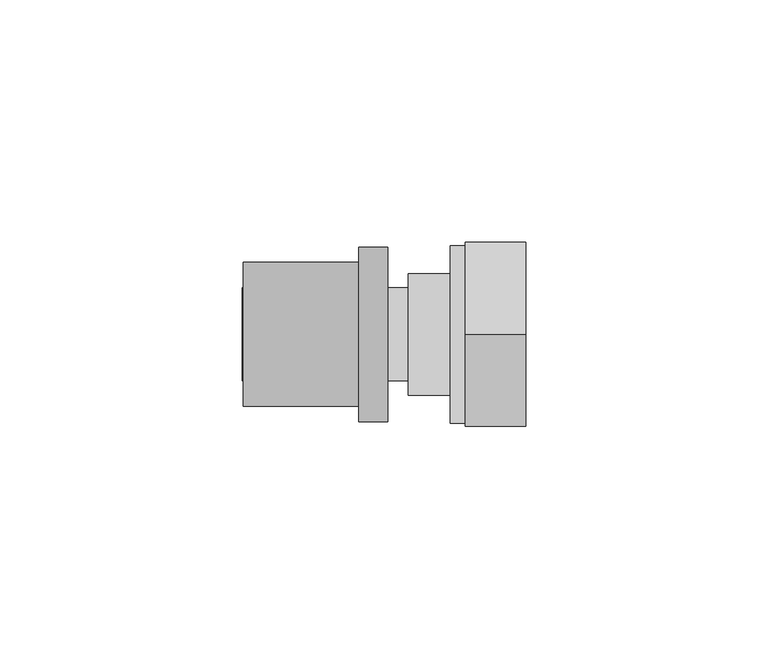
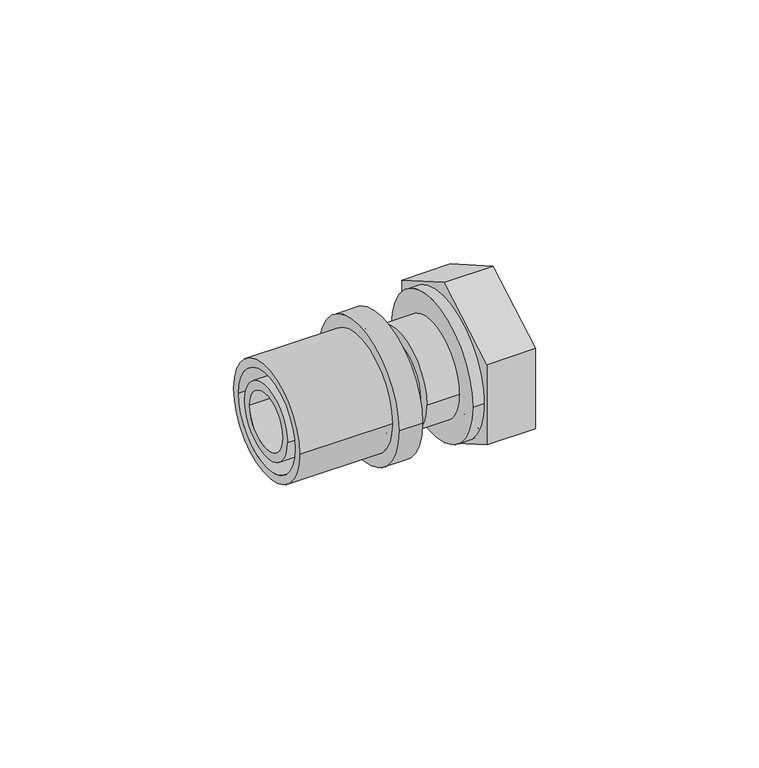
"""IFC4 building model written with IfcOpenShell, lengths in millimetres: pipe fitting geometry, FASTLOC_Adapter with union nut EX+ : FSL A union nut EX+ AT."""

from ifc_helpers import new_model, si_unit, point, frame, origin, origin_2d, place, context, project, spatial, polyline, circle_curve, trimmed, segment, composite_curve, outline, extrude, source, transform, mapped, element, save
from ifc_brep_helpers import plane_surface, cylinder_surface, revolved_surface, advanced_brep


def pipe_fitting_bacc4522(model_context):
    return source(origin(), model_context, "Body", "SolidModel", [
        advanced_brep(
        [(-10.3, -18.0, 0.0), (-10.3, 18.0, 0.0), (-4.3, 18.0, 0.0), (-4.3, -18.0, 0.0), (-34.1, -14.85, 0.0), (-34.1, 14.85, 0.0), (-10.3, 14.85, 0.0), (-10.3, -14.85, 0.0), (-4.3, -12.65, 0.0), (-4.3, 12.65, 0.0), (-34.1, 12.65, 0.0), (-34.1, -12.65, 0.0)],
        [
            (0, 1, circle_curve(frame((-10.3, 0.0, 0.0), z_axis=(1.0, 0.0, 0.0), x_axis=(0.0, 1.0, 0.0)), 18.0)),
            (1, 2),
            (2, 3, circle_curve(frame((-4.3, 0.0, 0.0), z_axis=(-1.0, 0.0, 0.0), x_axis=(0.0, 1.0, 0.0)), 18.0)),
            (3, 0),
            (4, 5, circle_curve(frame((-34.1, 0.0, 0.0), z_axis=(1.0, 0.0, 0.0), x_axis=(0.0, 1.0, 0.0)), 14.85)),
            (5, 6),
            (6, 7, circle_curve(frame((-10.3, 0.0, 0.0), z_axis=(-1.0, 0.0, 0.0), x_axis=(0.0, 1.0, 0.0)), 14.85)),
            (7, 4),
            (8, 9, circle_curve(frame((-4.3, 0.0, 0.0), z_axis=(1.0, 0.0, 0.0), x_axis=(0.0, 1.0, 0.0)), 12.65)),
            (9, 10),
            (10, 11, circle_curve(frame((-34.1, 0.0, 0.0), z_axis=(-1.0, 0.0, 0.0), x_axis=(0.0, 1.0, 0.0)), 12.65)),
            (11, 8),
            (1, 0, circle_curve(frame((-10.3, 0.0, 0.0), z_axis=(1.0, 0.0, 0.0), x_axis=(0.0, -1.0, 0.0)), 18.0)),
            (3, 2, circle_curve(frame((-4.3, 0.0, 0.0), z_axis=(-1.0, 0.0, 0.0), x_axis=(0.0, -1.0, 0.0)), 18.0)),
            (6, 7, circle_curve(frame((-10.3, 0.0, 0.0), z_axis=(1.0, 0.0, 0.0), x_axis=(0.0, -1.0, 0.0)), 14.85)),
            (5, 4, circle_curve(frame((-34.1, 0.0, 0.0), z_axis=(1.0, 0.0, 0.0), x_axis=(0.0, -1.0, 0.0)), 14.85)),
            (10, 11, circle_curve(frame((-34.1, 0.0, 0.0), z_axis=(1.0, 0.0, 0.0), x_axis=(0.0, -1.0, 0.0)), 12.65)),
            (9, 8, circle_curve(frame((-4.3, 0.0, 0.0), z_axis=(1.0, 0.0, 0.0), x_axis=(0.0, -1.0, 0.0)), 12.65)),
        ],
        [
            cylinder_surface(frame((-4.3, 0.0, 0.0), z_axis=(-1.0, 0.0, 0.0), x_axis=(0.0, 1.0, 0.0)), 18.0),
            cylinder_surface(frame((-4.3, 0.0, 0.0), z_axis=(-1.0, 0.0, 0.0), x_axis=(0.0, 1.0, 0.0)), 14.85),
            revolved_surface(polyline([(-34.1, 12.65, 0.0), (-4.3, 12.65, 0.0)]), (-4.3, 0.0, 0.0), (-1.0, 0.0, 0.0)),
            cylinder_surface(frame((-4.3, 0.0, 0.0), z_axis=(-1.0, 0.0, 0.0), x_axis=(0.0, -1.0, 0.0)), 18.0),
            plane_surface(frame((-10.3, 0.0, 0.0), z_axis=(-1.0, 0.0, 0.0), x_axis=(0.0, -1.0, 0.0))),
            cylinder_surface(frame((-4.3, 0.0, 0.0), z_axis=(-1.0, 0.0, 0.0), x_axis=(0.0, -1.0, 0.0)), 14.85),
            plane_surface(frame((-34.1, 0.0, 0.0), z_axis=(-1.0, 0.0, 0.0), x_axis=(0.0, -1.0, 0.0))),
            revolved_surface(polyline([(-34.1, -12.65, 0.0), (-4.3, -12.65, 0.0)]), (-4.3, 0.0, 0.0), (-1.0, 0.0, 0.0)),
            plane_surface(frame((-4.3, 0.0, 0.0), z_axis=(1.0, 0.0, 0.0), x_axis=(0.0, -1.0, 0.0))),
        ],
        [
            (0, [[1, 2, 3, 4]]),
            (1, [[5, 6, 7, 8]]),
            (2, [[9, 10, 11, 12]]),
            (3, [[13, -4, 14, -2]]),
            (4, [[-13, -1], [15, -7]]),
            (5, [[16, -8, -15, -6]]),
            (6, [[-16, -5], [17, -11]]),
            (7, [[18, -12, -17, -10]]),
            (8, [[-14, -3], [-18, -9]]),
        ],
    ),
        advanced_brep(
        [(-10.3, 9.6, 0.0), (-10.3, -9.6, 0.0), (-34.3, -9.6, 0.0), (-34.3, 9.6, 0.0), (-7.5, 11.1, 0.0), (-7.5, -11.1, 0.0), (-10.3, -11.1, 0.0), (-10.3, 11.1, 0.0), (0.0, 9.6, 0.0), (0.0, -9.6, 0.0), (-7.5, -9.6, 0.0), (-7.5, 9.6, 0.0), (-34.3, 7.35, 0.0), (-34.3, -7.35, 0.0), (0.0, -7.35, 0.0), (0.0, 7.35, 0.0)],
        [
            (0, 1, circle_curve(frame((-10.3, 0.0, 0.0), z_axis=(-1.0, 0.0, 0.0), x_axis=(0.0, -1.0, 0.0)), 9.6)),
            (1, 2),
            (2, 3, circle_curve(frame((-34.3, 0.0, 0.0), z_axis=(1.0, 0.0, 0.0), x_axis=(0.0, -1.0, 0.0)), 9.6)),
            (3, 0),
            (4, 5, circle_curve(frame((-7.5, 0.0, 0.0), z_axis=(-1.0, 0.0, 0.0), x_axis=(0.0, -1.0, 0.0)), 11.1)),
            (5, 6),
            (6, 7, circle_curve(frame((-10.3, 0.0, 0.0), z_axis=(1.0, 0.0, 0.0), x_axis=(0.0, -1.0, 0.0)), 11.1)),
            (7, 4),
            (8, 9, circle_curve(frame((0.0, 0.0, 0.0), z_axis=(-1.0, 0.0, 0.0), x_axis=(0.0, -1.0, 0.0)), 9.6)),
            (9, 10),
            (10, 11, circle_curve(frame((-7.5, 0.0, 0.0), z_axis=(1.0, 0.0, 0.0), x_axis=(0.0, -1.0, 0.0)), 9.6)),
            (11, 8),
            (12, 13, circle_curve(frame((-34.3, 0.0, 0.0), z_axis=(-1.0, 0.0, 0.0), x_axis=(0.0, -1.0, 0.0)), 7.35)),
            (13, 14),
            (14, 15, circle_curve(frame((0.0, 0.0, 0.0), z_axis=(1.0, 0.0, 0.0), x_axis=(0.0, -1.0, 0.0)), 7.35)),
            (15, 12),
            (2, 3, circle_curve(frame((-34.3, 0.0, 0.0), z_axis=(-1.0, 0.0, 0.0), x_axis=(0.0, 1.0, 0.0)), 9.6)),
            (12, 13, circle_curve(frame((-34.3, 0.0, 0.0), z_axis=(1.0, 0.0, 0.0), x_axis=(0.0, 1.0, 0.0)), 7.35)),
            (1, 0, circle_curve(frame((-10.3, 0.0, 0.0), z_axis=(-1.0, 0.0, 0.0), x_axis=(0.0, 1.0, 0.0)), 9.6)),
            (6, 7, circle_curve(frame((-10.3, 0.0, 0.0), z_axis=(-1.0, 0.0, 0.0), x_axis=(0.0, 1.0, 0.0)), 11.1)),
            (5, 4, circle_curve(frame((-7.5, 0.0, 0.0), z_axis=(-1.0, 0.0, 0.0), x_axis=(0.0, 1.0, 0.0)), 11.1)),
            (10, 11, circle_curve(frame((-7.5, 0.0, 0.0), z_axis=(-1.0, 0.0, 0.0), x_axis=(0.0, 1.0, 0.0)), 9.6)),
            (9, 8, circle_curve(frame((0.0, 0.0, 0.0), z_axis=(-1.0, 0.0, 0.0), x_axis=(0.0, 1.0, 0.0)), 9.6)),
            (14, 15, circle_curve(frame((0.0, 0.0, 0.0), z_axis=(-1.0, 0.0, 0.0), x_axis=(0.0, 1.0, 0.0)), 7.35)),
        ],
        [
            cylinder_surface(frame((0.0, 0.0, 0.0), z_axis=(1.0, 0.0, 0.0), x_axis=(0.0, -1.0, 0.0)), 9.6),
            cylinder_surface(frame((0.0, 0.0, 0.0), z_axis=(1.0, 0.0, 0.0), x_axis=(0.0, -1.0, 0.0)), 11.1),
            revolved_surface(polyline([(0.0, -7.35, 0.0), (-34.3, -7.35, 0.0)]), (0.0, 0.0, 0.0), (1.0, 0.0, 0.0)),
            plane_surface(frame((-34.3, 0.0, 0.0), z_axis=(-1.0, 0.0, 0.0), x_axis=(0.0, 1.0, 0.0))),
            cylinder_surface(frame((0.0, 0.0, 0.0), z_axis=(1.0, 0.0, 0.0), x_axis=(0.0, 1.0, 0.0)), 9.6),
            plane_surface(frame((-10.3, 0.0, 0.0), z_axis=(-1.0, 0.0, 0.0), x_axis=(0.0, 1.0, 0.0))),
            cylinder_surface(frame((0.0, 0.0, 0.0), z_axis=(1.0, 0.0, 0.0), x_axis=(0.0, 1.0, 0.0)), 11.1),
            plane_surface(frame((-7.5, 0.0, 0.0), z_axis=(1.0, 0.0, 0.0), x_axis=(0.0, 1.0, 0.0))),
            plane_surface(frame((0.0, 0.0, 0.0), z_axis=(1.0, 0.0, 0.0), x_axis=(0.0, 1.0, 0.0))),
            revolved_surface(polyline([(0.0, 7.35, 0.0), (-34.3, 7.35, 0.0)]), (0.0, 0.0, 0.0), (1.0, 0.0, 0.0)),
        ],
        [
            (0, [[1, 2, 3, 4]]),
            (1, [[5, 6, 7, 8]]),
            (0, [[9, 10, 11, 12]]),
            (2, [[13, 14, 15, 16]]),
            (3, [[17, -3], [18, -13]]),
            (4, [[19, -4, -17, -2]]),
            (5, [[20, -7], [-19, -1]]),
            (6, [[21, -8, -20, -6]]),
            (7, [[-21, -5], [22, -11]]),
            (4, [[23, -12, -22, -10]]),
            (8, [[-23, -9], [24, -15]]),
            (9, [[-18, -16, -24, -14]]),
        ],
    ),
        extrude(outline(polyline([(0.0, -21.9393102), (-19.0, -10.9696551), (-19.0, 10.9696551), (0.0, 21.9393102), (19.0, 10.9696551), (19.0, -10.9696551), (0.0, -21.9393102)]), holes=[composite_curve([segment(trimmed(circle_curve(origin_2d(), 15.3), [point((-15.3, 0.0))], [point((15.3, 0.0))], True, "CARTESIAN"), True, "CONTINUOUS"), segment(trimmed(circle_curve(origin_2d(), 15.3), [point((15.3, 0.0))], [point((-15.3, 0.0))], True, "CARTESIAN"), True, "CONTINUOUS")], self_intersect=False)]), frame((11.7, 0.0, 0.0), z_axis=(1.0, 0.0, 0.0), x_axis=(0.0, 1.0, 0.0)), (0.0, 0.0, 1.0), 12.5),
        advanced_brep(
        [(24.2, 18.3, 0.0), (24.2, -18.3, 0.0), (8.6, -18.3, 0.0), (8.6, 18.3, 0.0), (12.2, 15.3, 0.0), (12.2, -15.3, 0.0), (24.2, -15.3, 0.0), (24.2, 15.3, 0.0), (8.6, 11.7, 0.0), (8.6, -11.7, 0.0), (12.2, -11.7, 0.0), (12.2, 11.7, 0.0)],
        [
            (0, 1, circle_curve(frame((24.2, 0.0, 0.0), z_axis=(-1.0, 0.0, 0.0), x_axis=(0.0, -1.0, 0.0)), 18.3)),
            (1, 2),
            (2, 3, circle_curve(frame((8.6, 0.0, 0.0), z_axis=(1.0, 0.0, 0.0), x_axis=(0.0, -1.0, 0.0)), 18.3)),
            (3, 0),
            (4, 5, circle_curve(frame((12.2, 0.0, 0.0), z_axis=(-1.0, 0.0, 0.0), x_axis=(0.0, -1.0, 0.0)), 15.3)),
            (5, 6),
            (6, 7, circle_curve(frame((24.2, 0.0, 0.0), z_axis=(1.0, 0.0, 0.0), x_axis=(0.0, -1.0, 0.0)), 15.3)),
            (7, 4),
            (8, 9, circle_curve(frame((8.6, 0.0, 0.0), z_axis=(-1.0, 0.0, 0.0), x_axis=(0.0, -1.0, 0.0)), 11.7)),
            (9, 10),
            (10, 11, circle_curve(frame((12.2, 0.0, 0.0), z_axis=(1.0, 0.0, 0.0), x_axis=(0.0, -1.0, 0.0)), 11.7)),
            (11, 8),
            (1, 0, circle_curve(frame((24.2, 0.0, 0.0), z_axis=(-1.0, 0.0, 0.0), x_axis=(0.0, 1.0, 0.0)), 18.3)),
            (3, 2, circle_curve(frame((8.6, 0.0, 0.0), z_axis=(1.0, 0.0, 0.0), x_axis=(0.0, 1.0, 0.0)), 18.3)),
            (6, 7, circle_curve(frame((24.2, 0.0, 0.0), z_axis=(-1.0, 0.0, 0.0), x_axis=(0.0, 1.0, 0.0)), 15.3)),
            (5, 4, circle_curve(frame((12.2, 0.0, 0.0), z_axis=(-1.0, 0.0, 0.0), x_axis=(0.0, 1.0, 0.0)), 15.3)),
            (10, 11, circle_curve(frame((12.2, 0.0, 0.0), z_axis=(-1.0, 0.0, 0.0), x_axis=(0.0, 1.0, 0.0)), 11.7)),
            (9, 8, circle_curve(frame((8.6, 0.0, 0.0), z_axis=(-1.0, 0.0, 0.0), x_axis=(0.0, 1.0, 0.0)), 11.7)),
        ],
        [
            cylinder_surface(frame((0.0, 0.0, 0.0), z_axis=(1.0, 0.0, 0.0), x_axis=(0.0, -1.0, 0.0)), 18.3),
            revolved_surface(polyline([(24.2, -15.3, 0.0), (12.2, -15.3, 0.0)]), (0.0, 0.0, 0.0), (1.0, 0.0, 0.0)),
            revolved_surface(polyline([(12.2, -11.7, 0.0), (8.6, -11.7, 0.0)]), (0.0, 0.0, 0.0), (1.0, 0.0, 0.0)),
            cylinder_surface(frame((0.0, 0.0, 0.0), z_axis=(1.0, 0.0, 0.0), x_axis=(0.0, 1.0, 0.0)), 18.3),
            plane_surface(frame((24.2, 0.0, 0.0), z_axis=(1.0, 0.0, 0.0), x_axis=(0.0, 1.0, 0.0))),
            revolved_surface(polyline([(24.2, 15.3, 0.0), (12.2, 15.3, 0.0)]), (0.0, 0.0, 0.0), (1.0, 0.0, 0.0)),
            plane_surface(frame((12.2, 0.0, 0.0), z_axis=(1.0, 0.0, 0.0), x_axis=(0.0, 1.0, 0.0))),
            revolved_surface(polyline([(12.2, 11.7, 0.0), (8.6, 11.7, 0.0)]), (0.0, 0.0, 0.0), (1.0, 0.0, 0.0)),
            plane_surface(frame((8.6, 0.0, 0.0), z_axis=(-1.0, 0.0, 0.0), x_axis=(0.0, 1.0, 0.0))),
        ],
        [
            (0, [[1, 2, 3, 4]]),
            (1, [[5, 6, 7, 8]]),
            (2, [[9, 10, 11, 12]]),
            (3, [[13, -4, 14, -2]]),
            (4, [[-13, -1], [15, -7]]),
            (5, [[16, -8, -15, -6]]),
            (6, [[-16, -5], [17, -11]]),
            (7, [[18, -12, -17, -10]]),
            (8, [[-14, -3], [-18, -9]]),
        ],
    ),
        advanced_brep(
        [(12.0, 12.525, 0.0), (12.0, -12.525, 0.0), (0.0, -12.525, 0.0), (0.0, 12.525, 0.0), (13.95, 16.5, 0.0), (13.95, -16.5, 0.0), (12.0, -16.5, 0.0), (12.0, 16.5, 0.0), (1.4730817, 10.5, 0.0), (1.4730817, -10.5, 0.0), (13.95, -10.5, 0.0), (13.95, 10.5, 0.0), (0.0, 8.3264556, 0.0), (0.0, -8.3264556, 0.0), (1.4730817, -8.3264556, 0.0), (1.4730817, 8.3264556, 0.0)],
        [
            (0, 1, circle_curve(frame((12.0, 0.0, 0.0), z_axis=(-1.0, 0.0, 0.0), x_axis=(0.0, -1.0, 0.0)), 12.525)),
            (1, 2),
            (2, 3, circle_curve(frame((0.0, 0.0, 0.0), z_axis=(1.0, 0.0, 0.0), x_axis=(0.0, -1.0, 0.0)), 12.525)),
            (3, 0),
            (4, 5, circle_curve(frame((13.95, 0.0, 0.0), z_axis=(-1.0, 0.0, 0.0), x_axis=(0.0, -1.0, 0.0)), 16.5)),
            (5, 6),
            (6, 7, circle_curve(frame((12.0, 0.0, 0.0), z_axis=(1.0, 0.0, 0.0), x_axis=(0.0, -1.0, 0.0)), 16.5)),
            (7, 4),
            (8, 9, circle_curve(frame((1.4730817, 0.0, 0.0), z_axis=(-1.0, 0.0, 0.0), x_axis=(0.0, -1.0, 0.0)), 10.5)),
            (9, 10),
            (10, 11, circle_curve(frame((13.95, 0.0, 0.0), z_axis=(1.0, 0.0, 0.0), x_axis=(0.0, -1.0, 0.0)), 10.5)),
            (11, 8),
            (12, 13, circle_curve(frame((0.0, 0.0, 0.0), z_axis=(-1.0, 0.0, 0.0), x_axis=(0.0, -1.0, 0.0)), 8.3264556)),
            (13, 14),
            (14, 15, circle_curve(frame((1.4730817, 0.0, 0.0), z_axis=(1.0, 0.0, 0.0), x_axis=(0.0, -1.0, 0.0)), 8.3264556)),
            (15, 12),
            (2, 3, circle_curve(frame((0.0, 0.0, 0.0), z_axis=(-1.0, 0.0, 0.0), x_axis=(0.0, 1.0, 0.0)), 12.525)),
            (12, 13, circle_curve(frame((0.0, 0.0, 0.0), z_axis=(1.0, 0.0, 0.0), x_axis=(0.0, 1.0, 0.0)), 8.3264556)),
            (1, 0, circle_curve(frame((12.0, 0.0, 0.0), z_axis=(-1.0, 0.0, 0.0), x_axis=(0.0, 1.0, 0.0)), 12.525)),
            (6, 7, circle_curve(frame((12.0, 0.0, 0.0), z_axis=(-1.0, 0.0, 0.0), x_axis=(0.0, 1.0, 0.0)), 16.5)),
            (5, 4, circle_curve(frame((13.95, 0.0, 0.0), z_axis=(-1.0, 0.0, 0.0), x_axis=(0.0, 1.0, 0.0)), 16.5)),
            (10, 11, circle_curve(frame((13.95, 0.0, 0.0), z_axis=(-1.0, 0.0, 0.0), x_axis=(0.0, 1.0, 0.0)), 10.5)),
            (9, 8, circle_curve(frame((1.4730817, 0.0, 0.0), z_axis=(-1.0, 0.0, 0.0), x_axis=(0.0, 1.0, 0.0)), 10.5)),
            (14, 15, circle_curve(frame((1.4730817, 0.0, 0.0), z_axis=(-1.0, 0.0, 0.0), x_axis=(0.0, 1.0, 0.0)), 8.3264556)),
        ],
        [
            cylinder_surface(frame((0.0, 0.0, 0.0), z_axis=(1.0, 0.0, 0.0), x_axis=(0.0, -1.0, 0.0)), 12.525),
            cylinder_surface(frame((0.0, 0.0, 0.0), z_axis=(1.0, 0.0, 0.0), x_axis=(0.0, -1.0, 0.0)), 16.5),
            revolved_surface(polyline([(13.95, -10.5, 0.0), (1.4730817, -10.5, 0.0)]), (0.0, 0.0, 0.0), (1.0, 0.0, 0.0)),
            revolved_surface(polyline([(1.4730817, -8.3264556, 0.0), (0.0, -8.3264556, 0.0)]), (0.0, 0.0, 0.0), (1.0, 0.0, 0.0)),
            plane_surface(frame((0.0, 0.0, 0.0), z_axis=(-1.0, 0.0, 0.0), x_axis=(0.0, 1.0, 0.0))),
            cylinder_surface(frame((0.0, 0.0, 0.0), z_axis=(1.0, 0.0, 0.0), x_axis=(0.0, 1.0, 0.0)), 12.525),
            plane_surface(frame((12.0, 0.0, 0.0), z_axis=(-1.0, 0.0, 0.0), x_axis=(0.0, 1.0, 0.0))),
            cylinder_surface(frame((0.0, 0.0, 0.0), z_axis=(1.0, 0.0, 0.0), x_axis=(0.0, 1.0, 0.0)), 16.5),
            plane_surface(frame((13.95, 0.0, 0.0), z_axis=(1.0, 0.0, 0.0), x_axis=(0.0, 1.0, 0.0))),
            revolved_surface(polyline([(13.95, 10.5, 0.0), (1.4730817, 10.5, 0.0)]), (0.0, 0.0, 0.0), (1.0, 0.0, 0.0)),
            plane_surface(frame((1.4730817, 0.0, 0.0), z_axis=(1.0, 0.0, 0.0), x_axis=(0.0, 1.0, 0.0))),
            revolved_surface(polyline([(1.4730817, 8.3264556, 0.0), (0.0, 8.3264556, 0.0)]), (0.0, 0.0, 0.0), (1.0, 0.0, 0.0)),
        ],
        [
            (0, [[1, 2, 3, 4]]),
            (1, [[5, 6, 7, 8]]),
            (2, [[9, 10, 11, 12]]),
            (3, [[13, 14, 15, 16]]),
            (4, [[17, -3], [18, -13]]),
            (5, [[19, -4, -17, -2]]),
            (6, [[20, -7], [-19, -1]]),
            (7, [[21, -8, -20, -6]]),
            (8, [[-21, -5], [22, -11]]),
            (9, [[23, -12, -22, -10]]),
            (10, [[-23, -9], [24, -15]]),
            (11, [[-18, -16, -24, -14]]),
        ],
    ),
    ])


if __name__ == "__main__":
    model = new_model("IFC4")
    model_context = context("Model", 3, world=origin())
    ifc_project = project(units=[si_unit("LENGTHUNIT", "METRE", prefix="MILLI")], contexts=[model_context])
    site = spatial("IfcSite", under=ifc_project)
    building = spatial("IfcBuilding", under=site)
    placement = place(None, origin())
    pipe_fitting_shape = pipe_fitting_bacc4522(model_context)
    element("IfcPipeFitting", 1, ObjectType="FASTLOC_Adapter with union nut EX+ : FSL A union nut EX+ AT", at=placement, inside=building, context=model_context, shape_type="MappedRepresentation", body=[
        mapped(pipe_fitting_shape, transform((0.0, 0.0, 0.0), x_axis=(1.0, 0.0, 0.0), y_axis=(0.0, 1.0, 0.0), z_axis=(0.0, 0.0, 1.0))),
    ])
    save(model, "model.ifc")
